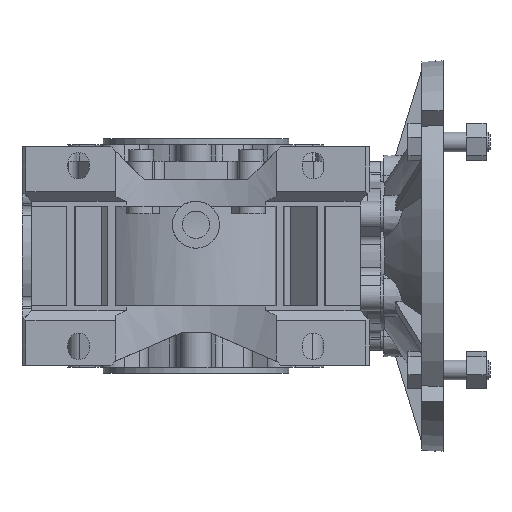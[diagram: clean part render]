
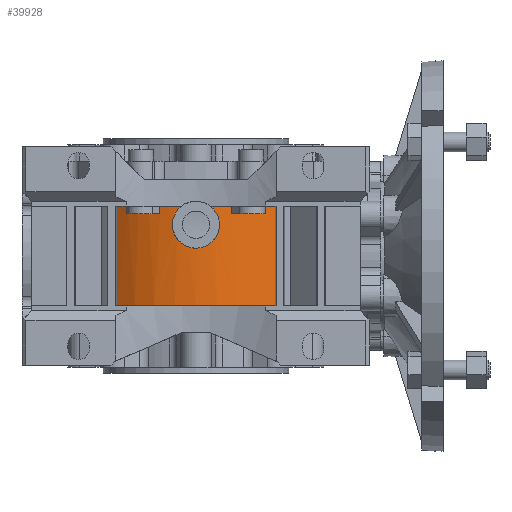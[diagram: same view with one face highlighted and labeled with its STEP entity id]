
A CAD part, front view. The second image highlights one B-rep face of the part: STEP entity #39928.
In plain terms, the highlighted cylindrical face has radius 69.8 mm (diameter 139.6 mm), a partial arc.
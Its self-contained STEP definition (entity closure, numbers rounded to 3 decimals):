
#1295=LINE('',#53508,#3994);
#1296=LINE('',#53512,#3995);
#1297=LINE('',#53516,#3996);
#1298=LINE('',#53520,#3997);
#1299=LINE('',#53524,#3998);
#1300=LINE('',#53528,#3999);
#3994=VECTOR('',#44671,1000.);
#3995=VECTOR('',#44674,1000.);
#3996=VECTOR('',#44677,1000.);
#3997=VECTOR('',#44680,1000.);
#3998=VECTOR('',#44683,1000.);
#3999=VECTOR('',#44686,1000.);
#6693=CIRCLE('',#41605,69.8);
#6694=CIRCLE('',#41606,69.8);
#6695=CIRCLE('',#41607,69.8);
#6696=CIRCLE('',#41608,69.8);
#6697=CIRCLE('',#41609,69.8);
#6698=CIRCLE('',#41610,69.8);
#6699=CIRCLE('',#41611,69.8);
#7947=ORIENTED_EDGE('',*,*,#16627,.F.);
#7948=ORIENTED_EDGE('',*,*,#16628,.T.);
#7949=ORIENTED_EDGE('',*,*,#16629,.T.);
#7950=ORIENTED_EDGE('',*,*,#16630,.T.);
#7951=ORIENTED_EDGE('',*,*,#16631,.T.);
#7952=ORIENTED_EDGE('',*,*,#16632,.T.);
#7953=ORIENTED_EDGE('',*,*,#16633,.F.);
#7954=ORIENTED_EDGE('',*,*,#16634,.F.);
#7955=ORIENTED_EDGE('',*,*,#16635,.F.);
#7956=ORIENTED_EDGE('',*,*,#16636,.T.);
#7957=ORIENTED_EDGE('',*,*,#16637,.T.);
#7958=ORIENTED_EDGE('',*,*,#16638,.T.);
#7959=ORIENTED_EDGE('',*,*,#16639,.T.);
#7960=ORIENTED_EDGE('',*,*,#16640,.T.);
#16627=EDGE_CURVE('',#20967,#20968,#23906,.T.);
#16628=EDGE_CURVE('',#20967,#20969,#6693,.T.);
#16629=EDGE_CURVE('',#20969,#20970,#1295,.T.);
#16630=EDGE_CURVE('',#20970,#20971,#6694,.T.);
#16631=EDGE_CURVE('',#20971,#20972,#1296,.F.);
#16632=EDGE_CURVE('',#20972,#20973,#6695,.T.);
#16633=EDGE_CURVE('',#20974,#20973,#1297,.F.);
#16634=EDGE_CURVE('',#20975,#20974,#6696,.T.);
#16635=EDGE_CURVE('',#20976,#20975,#1298,.T.);
#16636=EDGE_CURVE('',#20976,#20977,#6697,.T.);
#16637=EDGE_CURVE('',#20977,#20978,#1299,.T.);
#16638=EDGE_CURVE('',#20978,#20979,#6698,.T.);
#16639=EDGE_CURVE('',#20979,#20980,#1300,.F.);
#16640=EDGE_CURVE('',#20980,#20968,#6699,.T.);
#20967=VERTEX_POINT('',#53504);
#20968=VERTEX_POINT('',#53505);
#20969=VERTEX_POINT('',#53507);
#20970=VERTEX_POINT('',#53509);
#20971=VERTEX_POINT('',#53511);
#20972=VERTEX_POINT('',#53513);
#20973=VERTEX_POINT('',#53515);
#20974=VERTEX_POINT('',#53517);
#20975=VERTEX_POINT('',#53519);
#20976=VERTEX_POINT('',#53521);
#20977=VERTEX_POINT('',#53523);
#20978=VERTEX_POINT('',#53525);
#20979=VERTEX_POINT('',#53527);
#20980=VERTEX_POINT('',#53529);
#23906=B_SPLINE_CURVE_WITH_KNOTS('',3,(#53490,#53491,#53492,#53493,#53494,
#53495,#53496,#53497,#53498,#53499,#53500,#53501,#53502,#53503),
 .UNSPECIFIED.,.F.,.F.,(4,1,1,1,1,1,1,1,1,1,1,4),(0.064,0.068,
0.072,0.075,0.079,0.087,
0.094,0.101,0.109,0.113,
0.116,0.124),.UNSPECIFIED.);
#24142=EDGE_LOOP('',(#7947,#7948,#7949,#7950,#7951,#7952,#7953,#7954,#7955,
#7956,#7957,#7958,#7959,#7960));
#26091=FACE_BOUND('',#24142,.T.);
#28040=CYLINDRICAL_SURFACE('',#41604,69.8);
#39928=ADVANCED_FACE('',(#26091),#28040,.T.);
#41604=AXIS2_PLACEMENT_3D('',#53489,#44667,#44668);
#41605=AXIS2_PLACEMENT_3D('',#53506,#44669,#44670);
#41606=AXIS2_PLACEMENT_3D('',#53510,#44672,#44673);
#41607=AXIS2_PLACEMENT_3D('',#53514,#44675,#44676);
#41608=AXIS2_PLACEMENT_3D('',#53518,#44678,#44679);
#41609=AXIS2_PLACEMENT_3D('',#53522,#44681,#44682);
#41610=AXIS2_PLACEMENT_3D('',#53526,#44684,#44685);
#41611=AXIS2_PLACEMENT_3D('',#53530,#44687,#44688);
#44667=DIRECTION('',(1.,0.,0.));
#44668=DIRECTION('',(0.,0.,-1.));
#44669=DIRECTION('',(1.,0.,0.));
#44670=DIRECTION('',(0.,0.,-1.));
#44671=DIRECTION('',(1.,0.,0.));
#44672=DIRECTION('',(1.,0.,0.));
#44673=DIRECTION('',(0.,0.,-1.));
#44674=DIRECTION('',(1.,0.,0.));
#44675=DIRECTION('',(1.,0.,0.));
#44676=DIRECTION('',(0.,0.,-1.));
#44677=DIRECTION('',(1.,0.,0.));
#44678=DIRECTION('',(1.,0.,0.));
#44679=DIRECTION('',(0.,0.,-1.));
#44680=DIRECTION('',(1.,0.,0.));
#44681=DIRECTION('',(1.,0.,0.));
#44682=DIRECTION('',(0.,0.,-1.));
#44683=DIRECTION('',(1.,0.,0.));
#44684=DIRECTION('',(1.,0.,0.));
#44685=DIRECTION('',(0.,0.,-1.));
#44686=DIRECTION('',(1.,0.,0.));
#44687=DIRECTION('',(1.,0.,0.));
#44688=DIRECTION('',(0.,0.,-1.));
#53489=CARTESIAN_POINT('',(30.,0.,0.));
#53490=CARTESIAN_POINT('',(-25.5,-69.414,-7.331));
#53491=CARTESIAN_POINT('',(-24.736,-69.309,-8.322));
#53492=CARTESIAN_POINT('',(-22.925,-69.086,-10.033));
#53493=CARTESIAN_POINT('',(-19.537,-68.819,-11.673));
#53494=CARTESIAN_POINT('',(-15.762,-68.726,-12.194));
#53495=CARTESIAN_POINT('',(-10.814,-68.881,-11.321));
#53496=CARTESIAN_POINT('',(-5.598,-69.497,-7.451));
#53497=CARTESIAN_POINT('',(-3.2,-69.951,0.));
#53498=CARTESIAN_POINT('',(-5.601,-69.497,7.457));
#53499=CARTESIAN_POINT('',(-10.819,-68.88,11.327));
#53500=CARTESIAN_POINT('',(-15.783,-68.727,12.193));
#53501=CARTESIAN_POINT('',(-20.778,-68.85,11.502));
#53502=CARTESIAN_POINT('',(-23.978,-69.206,9.304));
#53503=CARTESIAN_POINT('',(-25.5,-69.414,7.331));
#53504=CARTESIAN_POINT('',(-25.5,-69.414,-7.331));
#53505=CARTESIAN_POINT('',(-25.5,-69.414,7.331));
#53506=CARTESIAN_POINT('',(-25.5,0.,0.));
#53507=CARTESIAN_POINT('',(-25.5,-67.329,-18.408));
#53508=CARTESIAN_POINT('',(30.,-67.329,-18.408));
#53509=CARTESIAN_POINT('',(-21.5,-67.329,-18.408));
#53510=CARTESIAN_POINT('',(-21.5,0.,0.));
#53511=CARTESIAN_POINT('',(-21.5,-60.625,-34.592));
#53512=CARTESIAN_POINT('',(30.,-60.625,-34.592));
#53513=CARTESIAN_POINT('',(-25.5,-60.625,-34.592));
#53514=CARTESIAN_POINT('',(-25.5,0.,0.));
#53515=CARTESIAN_POINT('',(-25.5,-56.794,-40.577));
#53516=CARTESIAN_POINT('',(30.,-56.794,-40.577));
#53517=CARTESIAN_POINT('',(25.5,-56.794,-40.577));
#53518=CARTESIAN_POINT('',(25.5,0.,0.));
#53519=CARTESIAN_POINT('',(25.5,-56.794,40.577));
#53520=CARTESIAN_POINT('',(30.,-56.794,40.577));
#53521=CARTESIAN_POINT('',(-25.5,-56.794,40.577));
#53522=CARTESIAN_POINT('',(-25.5,0.,0.));
#53523=CARTESIAN_POINT('',(-25.5,-60.625,34.592));
#53524=CARTESIAN_POINT('',(30.,-60.625,34.592));
#53525=CARTESIAN_POINT('',(-21.5,-60.625,34.592));
#53526=CARTESIAN_POINT('',(-21.5,0.,0.));
#53527=CARTESIAN_POINT('',(-21.5,-67.329,18.408));
#53528=CARTESIAN_POINT('',(30.,-67.329,18.408));
#53529=CARTESIAN_POINT('',(-25.5,-67.329,18.408));
#53530=CARTESIAN_POINT('',(-25.5,0.,0.));
